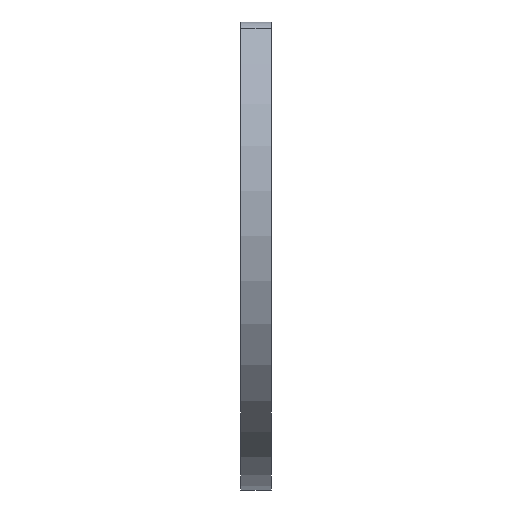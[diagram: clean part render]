
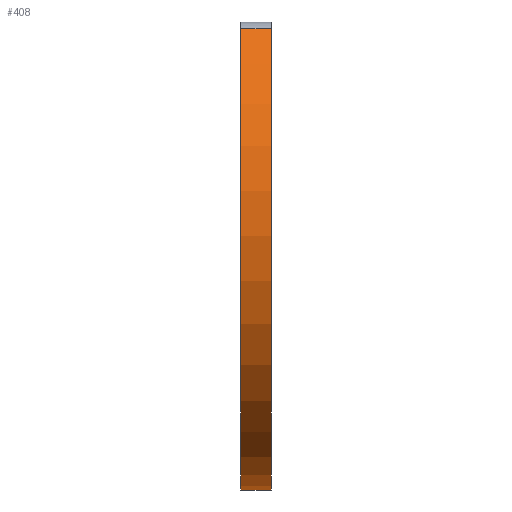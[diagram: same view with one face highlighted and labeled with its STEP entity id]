
A CAD part, left-side view. The second image highlights one B-rep face of the part: STEP entity #408.
In plain terms, the highlighted cylindrical face has radius 11.7 mm (diameter 23.4 mm), a partial arc.
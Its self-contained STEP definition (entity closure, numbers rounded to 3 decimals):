
#32 = ORIENTED_EDGE ( 'NONE', *, *, #606, .T. ) ;
#65 = DIRECTION ( 'NONE',  ( 0., 1., 0. ) ) ;
#96 = LINE ( 'NONE', #897, #925 ) ;
#122 = DIRECTION ( 'NONE',  ( 0., 0., -1. ) ) ;
#133 = CARTESIAN_POINT ( 'NONE',  ( -8.472, 0.65, 8.069 ) ) ;
#139 = CARTESIAN_POINT ( 'NONE',  ( 0., -0.65, -11.7 ) ) ;
#140 = AXIS2_PLACEMENT_3D ( 'NONE', #495, #637, #767 ) ;
#196 = ORIENTED_EDGE ( 'NONE', *, *, #676, .F. ) ;
#230 = CIRCLE ( 'NONE', #140, 11.7 ) ;
#238 = VERTEX_POINT ( 'NONE', #890 ) ;
#265 = DIRECTION ( 'NONE',  ( 0., -1., 0. ) ) ;
#277 = LINE ( 'NONE', #843, #695 ) ;
#286 = EDGE_CURVE ( 'NONE', #238, #547, #96, .T. ) ;
#300 = EDGE_LOOP ( 'NONE', ( #196, #446, #358, #32 ) ) ;
#301 = CYLINDRICAL_SURFACE ( 'NONE', #687, 11.7 ) ;
#358 = ORIENTED_EDGE ( 'NONE', *, *, #491, .T. ) ;
#368 = DIRECTION ( 'NONE',  ( 0., 0., 1. ) ) ;
#380 = FACE_OUTER_BOUND ( 'NONE', #300, .T. ) ;
#408 = ADVANCED_FACE ( 'NONE', ( #380 ), #301, .T. ) ;
#428 = CARTESIAN_POINT ( 'NONE',  ( -8.472, -0.65, 8.069 ) ) ;
#446 = ORIENTED_EDGE ( 'NONE', *, *, #286, .T. ) ;
#491 = EDGE_CURVE ( 'NONE', #547, #712, #230, .T. ) ;
#495 = CARTESIAN_POINT ( 'NONE',  ( 0., -0.65, 0. ) ) ;
#547 = VERTEX_POINT ( 'NONE', #139 ) ;
#552 = CARTESIAN_POINT ( 'NONE',  ( 0., 0.65, 0. ) ) ;
#555 = AXIS2_PLACEMENT_3D ( 'NONE', #859, #869, #368 ) ;
#590 = VERTEX_POINT ( 'NONE', #133 ) ;
#606 = EDGE_CURVE ( 'NONE', #712, #590, #277, .T. ) ;
#637 = DIRECTION ( 'NONE',  ( 0., 1., 0. ) ) ;
#676 = EDGE_CURVE ( 'NONE', #238, #590, #742, .T. ) ;
#687 = AXIS2_PLACEMENT_3D ( 'NONE', #552, #265, #122 ) ;
#695 = VECTOR ( 'NONE', #65, 1000. ) ;
#712 = VERTEX_POINT ( 'NONE', #428 ) ;
#742 = CIRCLE ( 'NONE', #555, 11.7 ) ;
#767 = DIRECTION ( 'NONE',  ( 0., 0., 1. ) ) ;
#812 = DIRECTION ( 'NONE',  ( 0., -1., 0. ) ) ;
#843 = CARTESIAN_POINT ( 'NONE',  ( -8.472, 0.65, 8.069 ) ) ;
#859 = CARTESIAN_POINT ( 'NONE',  ( 0., 0.65, 0. ) ) ;
#869 = DIRECTION ( 'NONE',  ( 0., 1., 0. ) ) ;
#890 = CARTESIAN_POINT ( 'NONE',  ( 0., 0.65, -11.7 ) ) ;
#897 = CARTESIAN_POINT ( 'NONE',  ( 0., 0.65, -11.7 ) ) ;
#925 = VECTOR ( 'NONE', #812, 1000. ) ;
